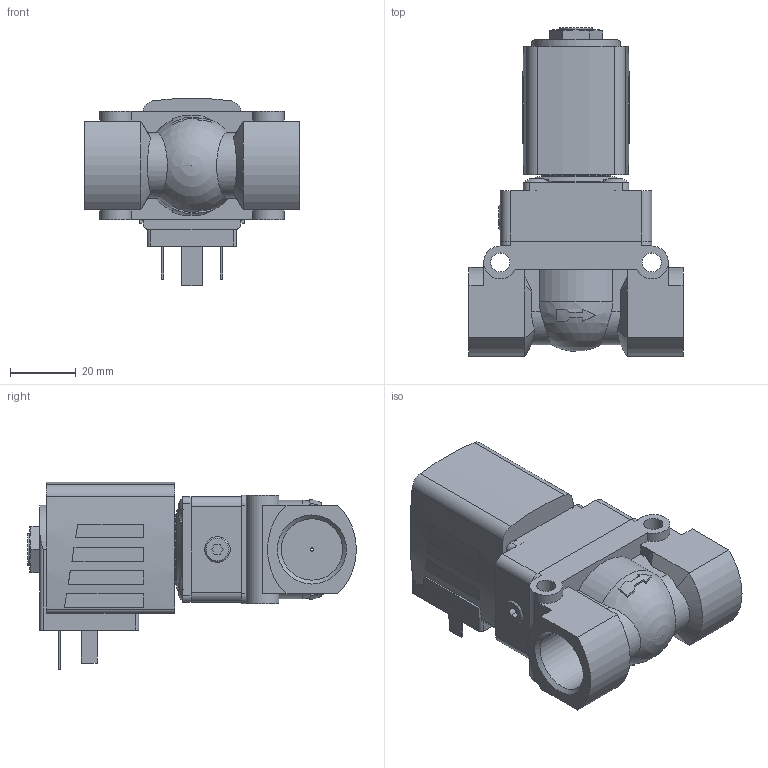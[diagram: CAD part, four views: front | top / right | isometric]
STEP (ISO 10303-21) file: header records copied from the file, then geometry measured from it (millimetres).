
FILE_DESCRIPTION(/* description */ ('STEP AP214'),/* implementation_level */ '2;1');
FILE_NAME(/* name */ '5404-301737-Servo-assisted_2_2_way_piston_valve',/* time_stamp */ '2024-02-27T14:11:37+01:00',/* author */ ('License CC BY-ND 4.0'),/* organization */ ('CADENAS'),/* preprocessor_version */ 'ST-DEVELOPER v19.3',/* originating_system */ 'PARTsolutions',/* authorisation */ ' ');
FILE_SCHEMA (('AUTOMOTIVE_DESIGN {1 0 10303 214 3 1 1}'));
Length unit declared in the file: millimetre
Products named in the file (4): 5404-301737-Servo-assisted 2/2 way piston valve; 5282g-8412MS000-2/2-Wege-Magnetventil_Gehaeuse; 5282d-12MSBU3J-2/2-Wege-Magnetventil_Deckel; AC10ex-5NA38-Plan-Coil
Assembly tree (3 placements, depth 2):
  5404-301737-Servo-assisted 2/2 way piston valve
    5282g-8412MS000-2/2-Wege-Magnetventil_Gehaeuse
    5282d-12MSBU3J-2/2-Wege-Magnetventil_Deckel
    AC10ex-5NA38-Plan-Coil
Bounding box: 65 x 99.8 x 56.91 mm (x, y, z)
Volume: 123565.5 mm3; surface area: 28671 mm2
Topology: 3 solids, 3 shells, 244 faces, 602 edges, 394 vertices
Faces by surface type: plane 160, cylinder 59, cone 17, torus 5, sphere 3
Full cylindrical faces by diameter (mm): 1 x1, 2.013 x1, 4 x4, 5.8 x2, 7.5 x4, 7.6 x4, 7.8 x1, 9.74 x1, 18.631 x2, 21 x1
Entity records: 7807 total; most frequent: CARTESIAN_POINT 1332, DIRECTION 1224, ORIENTED_EDGE 1118, EDGE_CURVE 559, AXIS2_PLACEMENT_3D 453, VERTEX_POINT 383, LINE 318, VECTOR 318
